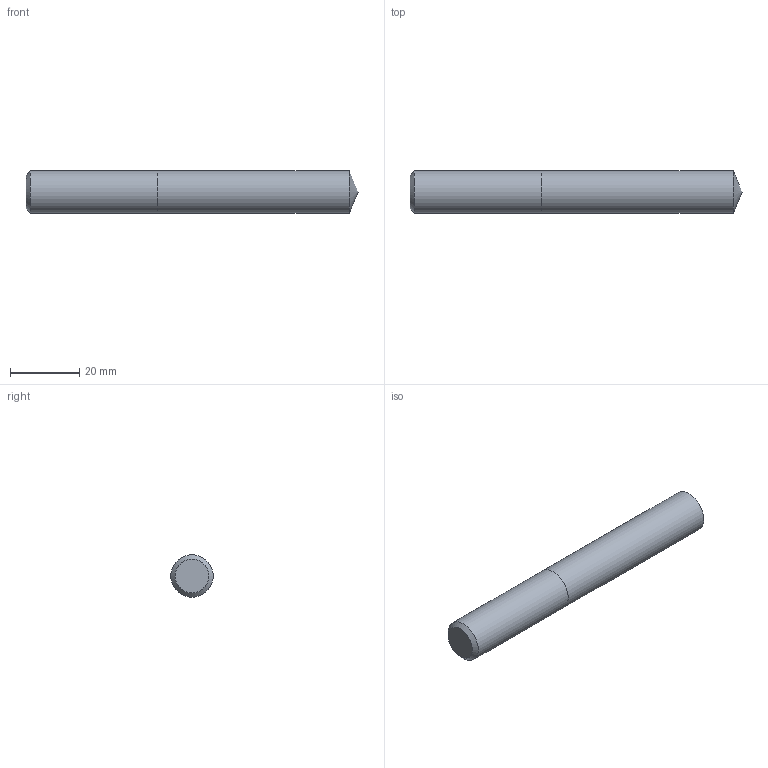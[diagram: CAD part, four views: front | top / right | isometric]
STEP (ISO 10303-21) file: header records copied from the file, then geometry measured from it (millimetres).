
FILE_DESCRIPTION (( 'STEP AP214' ), '1' );
FILE_NAME ('03-2430.STEP', '2022-06-03T07:40:27', ( 'USER' ), ( '' ), 'SwSTEP 2.0', 'SolidWorks 2018', '' );
FILE_SCHEMA (( 'AUTOMOTIVE_DESIGN' ));
Length unit declared in the file: inch
Products named in the file (1): 03-2430
Bounding box: 96.21 x 12.3 x 12.3 mm (x, y, z)
Volume: 11208.6 mm3; surface area: 4075.7 mm2
Topology: 2 solids, 2 shells, 7 faces, 11 edges, 7 vertices
Faces by surface type: plane 3, cylinder 2, cone 2
Full cylindrical faces by diameter (mm): 12.303 x2
Entity records: 214 total; most frequent: DIRECTION 26, CARTESIAN_POINT 18, AXIS2_PLACEMENT_3D 13, ORIENTED_EDGE 10, EDGE_LOOP 10, FACE_OUTER_BOUND 9, LENGTH_MEASURE_WITH_UNIT 7, UNCERTAINTY_MEASURE_WITH_UNIT 7
